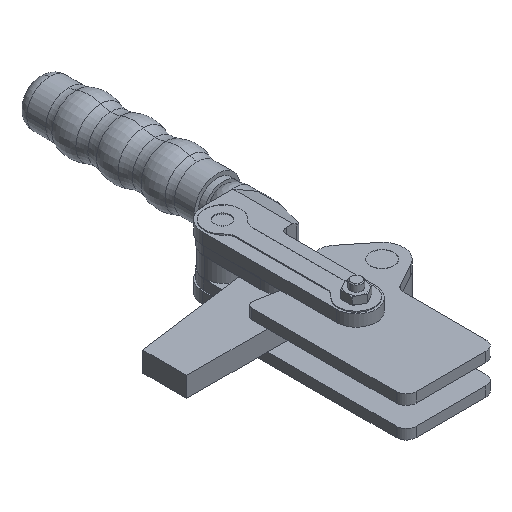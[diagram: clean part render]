
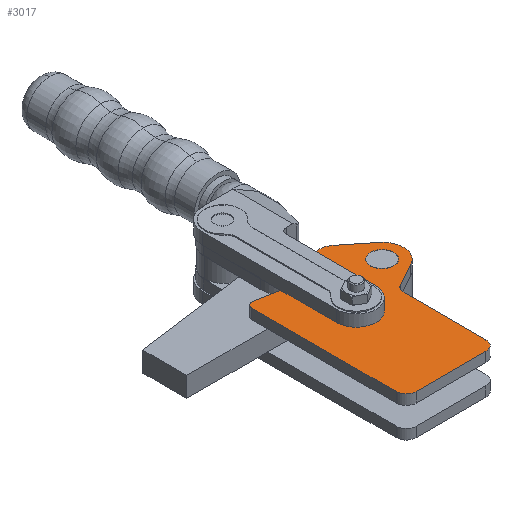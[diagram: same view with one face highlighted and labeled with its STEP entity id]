
A CAD part, isometric view. The second image highlights one B-rep face of the part: STEP entity #3017.
In plain terms, the highlighted planar face has unit normal (0, 0, 1).
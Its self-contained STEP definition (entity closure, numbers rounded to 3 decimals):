
#1199 = VERTEX_POINT( '', #3446 );
#1373 = VERTEX_POINT( '', #3643 );
#1421 = VERTEX_POINT( '', #3695 );
#1495 = VERTEX_POINT( '', #3778 );
#1511 = EDGE_CURVE( '', #2081, #2447, #3794, .T. );
#1517 = VERTEX_POINT( '', #3801 );
#1525 = EDGE_CURVE( '', #2109, #1949, #3809, .T. );
#1567 = VERTEX_POINT( '', #3855 );
#1755 = EDGE_CURVE( '', #2447, #2109, #4056, .T. );
#1915 = EDGE_CURVE( '', #1517, #1373, #4239, .T. );
#1949 = VERTEX_POINT( '', #4281 );
#1955 = VERTEX_POINT( '', #4287 );
#1957 = VERTEX_POINT( '', #4289 );
#2055 = EDGE_CURVE( '', #1199, #1517, #4399, .T. );
#2081 = VERTEX_POINT( '', #4427 );
#2109 = VERTEX_POINT( '', #4457 );
#2353 = EDGE_CURVE( '', #1421, #3087, #4730, .T. );
#2383 = EDGE_CURVE( '', #1949, #1421, #4762, .T. );
#2447 = VERTEX_POINT( '', #4837 );
#2495 = VERTEX_POINT( '', #4889 );
#2513 = EDGE_CURVE( '', #1567, #2081, #4908, .T. );
#2525 = EDGE_CURVE( '', #1495, #2727, #4922, .T. );
#2575 = EDGE_CURVE( '', #1373, #2495, #4978, .T. );
#2647 = EDGE_CURVE( '', #3185, #1567, #5061, .T. );
#2727 = VERTEX_POINT( '', #5154 );
#2821 = EDGE_CURVE( '', #1955, #1957, #5259, .T. );
#3013 = EDGE_CURVE( '', #3087, #1199, #5467, .T. );
#3017 = ADVANCED_FACE( '', ( #5471, #5472 ), #5473, .T. );
#3087 = VERTEX_POINT( '', #5548 );
#3129 = EDGE_CURVE( '', #2727, #1495, #5595, .T. );
#3151 = EDGE_CURVE( '', #2495, #1955, #5617, .T. );
#3185 = VERTEX_POINT( '', #5653 );
#3187 = EDGE_CURVE( '', #1957, #3185, #5655, .T. );
#3446 = CARTESIAN_POINT( '', ( 0., 5., 10. ) );
#3643 = CARTESIAN_POINT( '', ( 40., 0., 10. ) );
#3695 = CARTESIAN_POINT( '', ( 3.518, 80.028, 10. ) );
#3778 = CARTESIAN_POINT( '', ( 48.096, 66., 10. ) );
#3794 = CIRCLE( '', #6450, 8. );
#3801 = CARTESIAN_POINT( '', ( 5., 0., 10. ) );
#3809 = CIRCLE( '', #6469, 11.8 );
#3855 = CARTESIAN_POINT( '', ( 60.516, 73.972, 10. ) );
#4056 = LINE( '', #6814, #6815 );
#4239 = LINE( '', #7053, #7054 );
#4281 = CARTESIAN_POINT( '', ( 22.759, 76.409, 10. ) );
#4287 = CARTESIAN_POINT( '', ( 45., 45.997, 10. ) );
#4289 = CARTESIAN_POINT( '', ( 47.614, 50.391, 10. ) );
#4399 = CIRCLE( '', #7284, 5. );
#4427 = CARTESIAN_POINT( '', ( 47.684, 84.256, 10. ) );
#4457 = CARTESIAN_POINT( '', ( 33.588, 79.977, 10. ) );
#4730 = CIRCLE( '', #7745, 3. );
#4762 = LINE( '', #7790, #7791 );
#4837 = CARTESIAN_POINT( '', ( 36.817, 83.456, 10. ) );
#4889 = CARTESIAN_POINT( '', ( 45., 5., 10. ) );
#4908 = LINE( '', #7989, #7990 );
#4922 = CIRCLE( '', #8007, 5.875 );
#4978 = CIRCLE( '', #8076, 5. );
#5061 = CIRCLE( '', #8184, 10.5 );
#5154 = CARTESIAN_POINT( '', ( 59.846, 66., 10. ) );
#5259 = CIRCLE( '', #8470, 5. );
#5467 = LINE( '', #8760, #8761 );
#5471 = FACE_BOUND( '', #8766, .T. );
#5472 = FACE_OUTER_BOUND( '', #8767, .T. );
#5473 = PLANE( '', #8768 );
#5548 = CARTESIAN_POINT( '', ( 0., 77.544, 10. ) );
#5595 = CIRCLE( '', #8940, 5.875 );
#5617 = LINE( '', #8970, #8971 );
#5653 = CARTESIAN_POINT( '', ( 58.96, 56.551, 10. ) );
#5655 = LINE( '', #9052, #9053 );
#6450 = AXIS2_PLACEMENT_3D( '', #9866, #9867, #9868 );
#6469 = AXIS2_PLACEMENT_3D( '', #9883, #9884, #9885 );
#6814 = CARTESIAN_POINT( '', ( 36.817, 83.456, 10. ) );
#6815 = VECTOR( '', #10108, 1. );
#7053 = CARTESIAN_POINT( '', ( 5., 0., 10. ) );
#7054 = VECTOR( '', #10357, 1. );
#7284 = AXIS2_PLACEMENT_3D( '', #10565, #10566, #10567 );
#7745 = AXIS2_PLACEMENT_3D( '', #10955, #10956, #10957 );
#7790 = CARTESIAN_POINT( '', ( 22.759, 76.409, 10. ) );
#7791 = VECTOR( '', #10984, 1. );
#7989 = CARTESIAN_POINT( '', ( 60.516, 73.972, 10. ) );
#7990 = VECTOR( '', #11172, 1. );
#8007 = AXIS2_PLACEMENT_3D( '', #11193, #11194, #11195 );
#8076 = AXIS2_PLACEMENT_3D( '', #11266, #11267, #11268 );
#8184 = AXIS2_PLACEMENT_3D( '', #11395, #11396, #11397 );
#8470 = AXIS2_PLACEMENT_3D( '', #11625, #11626, #11627 );
#8760 = CARTESIAN_POINT( '', ( 0., 77.544, 10. ) );
#8761 = VECTOR( '', #11848, 1. );
#8766 = EDGE_LOOP( '', ( #11853, #11854 ) );
#8767 = EDGE_LOOP( '', ( #11855, #11856, #11857, #11858, #11859, #11860, #11861, #11862, #11863, #11864, #11865, #11866, #11867, #11868 ) );
#8768 = AXIS2_PLACEMENT_3D( '', #11869, #11870, #11871 );
#8940 = AXIS2_PLACEMENT_3D( '', #12004, #12005, #12006 );
#8970 = CARTESIAN_POINT( '', ( 45., 5., 10. ) );
#8971 = VECTOR( '', #12018, 1. );
#9052 = CARTESIAN_POINT( '', ( 47.614, 50.391, 10. ) );
#9053 = VECTOR( '', #12048, 1. );
#9866 = CARTESIAN_POINT( '', ( 42.681, 78.014, 10. ) );
#9867 = DIRECTION( '', ( 0., 0., 1. ) );
#9868 = DIRECTION( '', ( 0.625, 0.78, 0. ) );
#9883 = CARTESIAN_POINT( '', ( 24.94, 88.005, 10. ) );
#9884 = DIRECTION( '', ( 0., 0., -1. ) );
#9885 = DIRECTION( '', ( 0.733, -0.68, 0. ) );
#10108 = DIRECTION( '', ( -0.68, -0.733, 0. ) );
#10357 = DIRECTION( '', ( 1., 0., 0. ) );
#10565 = CARTESIAN_POINT( '', ( 5., 5., 10. ) );
#10566 = DIRECTION( '', ( 0., 0., 1. ) );
#10567 = DIRECTION( '', ( -1., 0., 0. ) );
#10955 = CARTESIAN_POINT( '', ( 2.964, 77.079, 10. ) );
#10956 = DIRECTION( '', ( 0., 0., 1. ) );
#10957 = DIRECTION( '', ( 0.185, 0.983, 0. ) );
#10984 = DIRECTION( '', ( -0.983, 0.185, 0. ) );
#11172 = DIRECTION( '', ( -0.78, 0.625, 0. ) );
#11193 = CARTESIAN_POINT( '', ( 53.971, 66., 10. ) );
#11194 = DIRECTION( '', ( 0., 0., -1. ) );
#11195 = DIRECTION( '', ( 1., 0., 0. ) );
#11266 = CARTESIAN_POINT( '', ( 40., 5., 10. ) );
#11267 = DIRECTION( '', ( 0., 0., 1. ) );
#11268 = DIRECTION( '', ( 0., -1., 0. ) );
#11395 = CARTESIAN_POINT( '', ( 53.95, 65.779, 10. ) );
#11396 = DIRECTION( '', ( 0., 0., 1. ) );
#11397 = DIRECTION( '', ( 0.477, -0.879, 0. ) );
#11625 = CARTESIAN_POINT( '', ( 50., 45.997, 10. ) );
#11626 = DIRECTION( '', ( 0., 0., -1. ) );
#11627 = DIRECTION( '', ( -1., 0., 0. ) );
#11848 = DIRECTION( '', ( 0., -1., 0. ) );
#11853 = ORIENTED_EDGE( '', *, *, #2525, .T. );
#11854 = ORIENTED_EDGE( '', *, *, #3129, .T. );
#11855 = ORIENTED_EDGE( '', *, *, #3013, .T. );
#11856 = ORIENTED_EDGE( '', *, *, #2055, .T. );
#11857 = ORIENTED_EDGE( '', *, *, #1915, .T. );
#11858 = ORIENTED_EDGE( '', *, *, #2575, .T. );
#11859 = ORIENTED_EDGE( '', *, *, #3151, .T. );
#11860 = ORIENTED_EDGE( '', *, *, #2821, .T. );
#11861 = ORIENTED_EDGE( '', *, *, #3187, .T. );
#11862 = ORIENTED_EDGE( '', *, *, #2647, .T. );
#11863 = ORIENTED_EDGE( '', *, *, #2513, .T. );
#11864 = ORIENTED_EDGE( '', *, *, #1511, .T. );
#11865 = ORIENTED_EDGE( '', *, *, #1755, .T. );
#11866 = ORIENTED_EDGE( '', *, *, #1525, .T. );
#11867 = ORIENTED_EDGE( '', *, *, #2383, .T. );
#11868 = ORIENTED_EDGE( '', *, *, #2353, .T. );
#11869 = CARTESIAN_POINT( '', ( 0., 0., 10. ) );
#11870 = DIRECTION( '', ( 0., 0., 1. ) );
#11871 = DIRECTION( '', ( 1., 0., 0. ) );
#12004 = CARTESIAN_POINT( '', ( 53.971, 66., 10. ) );
#12005 = DIRECTION( '', ( 0., 0., -1. ) );
#12006 = DIRECTION( '', ( 1., 0., 0. ) );
#12018 = DIRECTION( '', ( 0., 1., 0. ) );
#12048 = DIRECTION( '', ( 0.879, 0.477, 0. ) );
